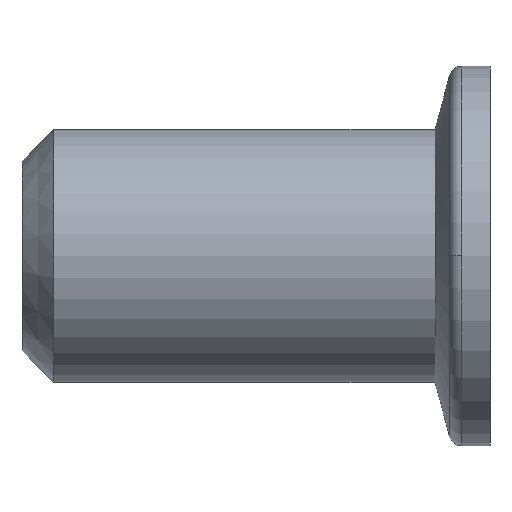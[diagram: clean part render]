
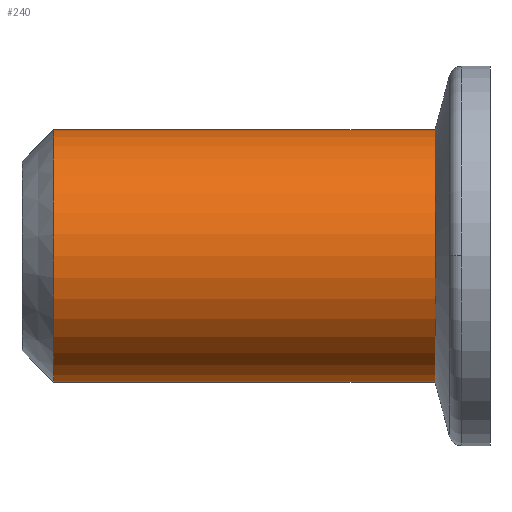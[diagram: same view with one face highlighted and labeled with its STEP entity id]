
A CAD part, top view. The second image highlights one B-rep face of the part: STEP entity #240.
In plain terms, the highlighted cylindrical face has radius 10 mm (diameter 20 mm), a partial arc.
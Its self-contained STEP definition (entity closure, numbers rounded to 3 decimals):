
#133=CYLINDRICAL_SURFACE('',#825,10.);
#157=LINE('',#1195,#198);
#158=LINE('',#1200,#199);
#198=VECTOR('',#952,1.);
#199=VECTOR('',#955,1.);
#240=ADVANCED_FACE('',(#293),#133,.T.);
#293=FACE_OUTER_BOUND('',#332,.T.);
#332=EDGE_LOOP('',(#399,#400,#401,#402));
#399=ORIENTED_EDGE('',*,*,#660,.F.);
#400=ORIENTED_EDGE('',*,*,#661,.F.);
#401=ORIENTED_EDGE('',*,*,#662,.F.);
#402=ORIENTED_EDGE('',*,*,#663,.F.);
#592=VERTEX_POINT('',#1196);
#593=VERTEX_POINT('',#1197);
#594=VERTEX_POINT('',#1199);
#595=VERTEX_POINT('',#1201);
#660=EDGE_CURVE('',#592,#593,#157,.T.);
#661=EDGE_CURVE('',#594,#592,#755,.T.);
#662=EDGE_CURVE('',#595,#594,#158,.T.);
#663=EDGE_CURVE('',#593,#595,#756,.T.);
#755=CIRCLE('',#823,10.);
#756=CIRCLE('',#824,10.);
#823=AXIS2_PLACEMENT_3D('',#1198,#953,#954);
#824=AXIS2_PLACEMENT_3D('',#1202,#956,#957);
#825=AXIS2_PLACEMENT_3D('',#1203,#958,#959);
#952=DIRECTION('',(1.,0.,0.));
#953=DIRECTION('',(-1.,0.,0.));
#954=DIRECTION('',(0.,-1.,0.));
#955=DIRECTION('',(-1.,0.,0.));
#956=DIRECTION('',(1.,0.,0.));
#957=DIRECTION('',(0.,1.,0.));
#958=DIRECTION('',(1.,0.,0.));
#959=DIRECTION('',(0.,-1.,0.));
#1195=CARTESIAN_POINT('',(-31.,10.,0.));
#1196=CARTESIAN_POINT('',(-31.,10.,0.));
#1197=CARTESIAN_POINT('',(-0.84,10.,0.));
#1198=CARTESIAN_POINT('',(-31.,0.,0.));
#1199=CARTESIAN_POINT('',(-31.,-10.,0.));
#1200=CARTESIAN_POINT('',(-0.84,-10.,0.));
#1201=CARTESIAN_POINT('',(-0.84,-10.,0.));
#1202=CARTESIAN_POINT('',(-0.84,0.,0.));
#1203=CARTESIAN_POINT('',(-17.17,0.,0.));
